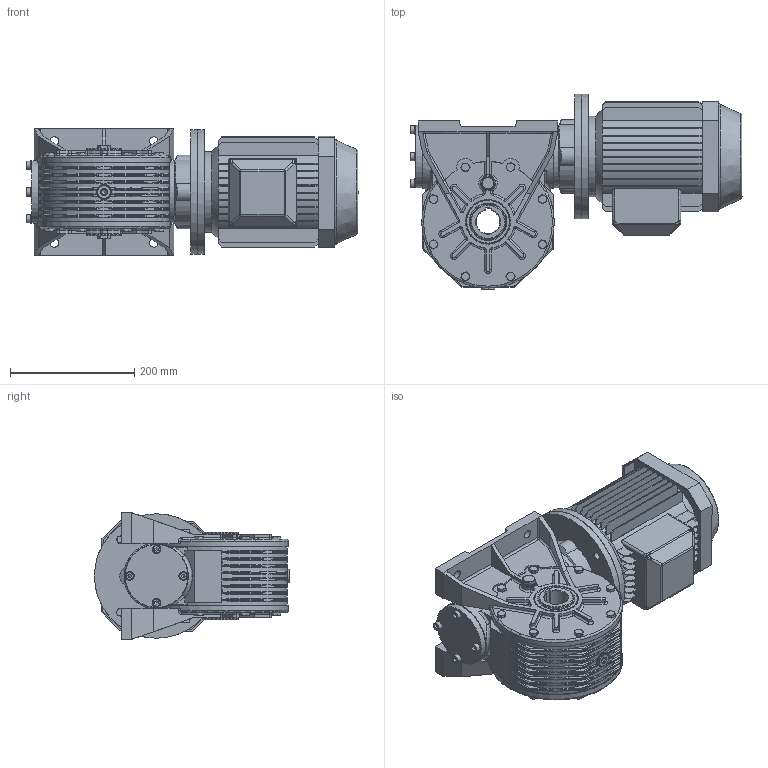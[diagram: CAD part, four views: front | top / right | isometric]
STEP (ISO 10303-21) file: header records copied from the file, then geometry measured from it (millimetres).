
FILE_DESCRIPTION((''),'2;1');
FILE_NAME('Y:\Archivi Inventor\Prog_01\GRAND_50\complessivi\Figurini\MRV50 sito\90l\mrv50_P1_90L_B5.stp','2013-02-06T15:30:46',('tech3'),(''),'Autodesk Inventor 2013','Autodesk Inventor 2013','');
FILE_SCHEMA(('AUTOMOTIVE_DESIGN { 1 0 10303 214 1 1 1 1 }'));
Length unit declared in the file: millimetre
Products named in the file (18): mrv50_80_90l_90s_b5; mrv50_fig; Figurino_carcassa_MRV50; 0105028; 0105029; figurino_corona_MRV50; figurino_0105010; Guarnizione 3_8 GAS; Tappo 3_8 GAS_esagn_incsst; Tappo3_8 GAS; figurino_0105009; ISO 4017 M8 x 20; 55_70_8; UNI 6592 8.4 x 14; UNI 5931  M 8 x  25; 0105006; ISO 4762 M8 x 20; motori B5 90L
Assembly tree (50 placements, depth 3):
  mrv50_80_90l_90s_b5
    mrv50_fig
      Figurino_carcassa_MRV50
      0105028  x2
      0105029  x2
      figurino_corona_MRV50
      figurino_0105010  x2
      Guarnizione 3_8 GAS  x4
      Tappo 3_8 GAS_esagn_incsst  x2
      Tappo3_8 GAS  x2
      figurino_0105009
      ISO 4017 M8 x 20  x16
      55_70_8  x2
      UNI 6592 8.4 x 14  x4
      UNI 5931  M 8 x  25  x4
    0105006
    ISO 4762 M8 x 20  x4
    motori B5 90L
Bounding box: 533.8 x 314 x 203.7 mm (x, y, z)
Volume: 11634303.1 mm3; surface area: 1302958.1 mm2
Topology: 61 solids, 63 shells, 2185 faces, 5225 edges, 3088 vertices
Faces by surface type: plane 889, cylinder 673, cone 216, torus 175, bspline 162, sphere 70
Full cylindrical faces by diameter (mm): 2 x2, 6.647 x24, 8 x26, 8.4 x4, 8.5 x48, 11.63 x16, 12 x8, 13 x12, 13.046 x2, 14 x8, 14.95 x4, 16.3 x4, 16.5 x2, 22 x8, 24 x3, 55 x1, 60 x1, 66.4 x2, 69 x2, 70 x5, 72 x4, 73 x2, 75 x1, 99.5 x2, 100 x1, 101 x1, 102 x2, 114.4 x1, 124 x1, 130 x3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
Entity records: 52262 total; most frequent: CARTESIAN_POINT 17459, DIRECTION 7224, ORIENTED_EDGE 6670, EDGE_CURVE 3335, AXIS2_PLACEMENT_3D 2826, VERTEX_POINT 2141, EDGE_LOOP 1862, VECTOR 1572
